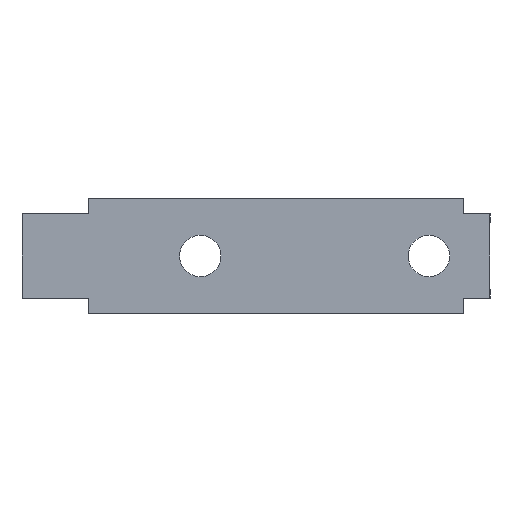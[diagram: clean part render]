
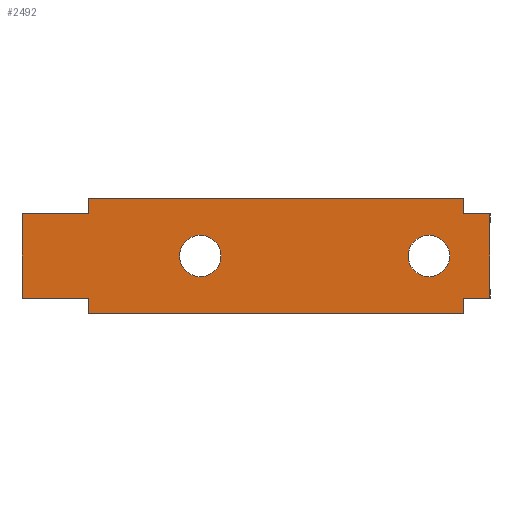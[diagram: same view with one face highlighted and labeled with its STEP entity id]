
A CAD part, left-side view. The second image highlights one B-rep face of the part: STEP entity #2492.
In plain terms, the highlighted planar face has unit normal (-1, 0, 0).
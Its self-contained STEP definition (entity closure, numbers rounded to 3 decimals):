
#77 = VECTOR ( 'NONE', #2344, 1000. ) ;
#78 = LINE ( 'NONE', #2345, #77 ) ;
#85 = CIRCLE ( 'NONE', #795, 2.9 ) ;
#109 = VECTOR ( 'NONE', #1257, 1000. ) ;
#114 = LINE ( 'NONE', #1260, #109 ) ;
#201 = VECTOR ( 'NONE', #1315, 1000. ) ;
#203 = VECTOR ( 'NONE', #1313, 1000. ) ;
#206 = LINE ( 'NONE', #1312, #201 ) ;
#208 = LINE ( 'NONE', #1310, #203 ) ;
#209 = VECTOR ( 'NONE', #1307, 1000. ) ;
#214 = LINE ( 'NONE', #1302, #209 ) ;
#222 = VECTOR ( 'NONE', #1376, 1000. ) ;
#223 = LINE ( 'NONE', #1377, #222 ) ;
#330 = ORIENTED_EDGE ( 'NONE', *, *, #1190, .F. ) ;
#331 = ORIENTED_EDGE ( 'NONE', *, *, #1143, .F. ) ;
#332 = ORIENTED_EDGE ( 'NONE', *, *, #958, .F. ) ;
#333 = ORIENTED_EDGE ( 'NONE', *, *, #1197, .F. ) ;
#334 = ORIENTED_EDGE ( 'NONE', *, *, #963, .T. ) ;
#335 = ORIENTED_EDGE ( 'NONE', *, *, #1175, .F. ) ;
#336 = ORIENTED_EDGE ( 'NONE', *, *, #834, .F. ) ;
#337 = ORIENTED_EDGE ( 'NONE', *, *, #1137, .F. ) ;
#338 = ORIENTED_EDGE ( 'NONE', *, *, #1242, .F. ) ;
#339 = ORIENTED_EDGE ( 'NONE', *, *, #1237, .F. ) ;
#340 = ORIENTED_EDGE ( 'NONE', *, *, #1214, .F. ) ;
#341 = ORIENTED_EDGE ( 'NONE', *, *, #947, .T. ) ;
#342 = ORIENTED_EDGE ( 'NONE', *, *, #830, .F. ) ;
#343 = ORIENTED_EDGE ( 'NONE', *, *, #808, .F. ) ;
#344 = ORIENTED_EDGE ( 'NONE', *, *, #1040, .F. ) ;
#345 = ORIENTED_EDGE ( 'NONE', *, *, #821, .T. ) ;
#617 = EDGE_LOOP ( 'NONE', ( #334, #335, #336, #337, #338, #339, #340, #341, #342, #343, #344, #345 ) ) ;
#620 = EDGE_LOOP ( 'NONE', ( #330, #331 ) ) ;
#621 = EDGE_LOOP ( 'NONE', ( #332, #333 ) ) ;
#795 = AXIS2_PLACEMENT_3D ( 'NONE', #2384, #2376, #2375 ) ;
#808 = EDGE_CURVE ( 'NONE', #1383, #1446, #223, .T. ) ;
#821 = EDGE_CURVE ( 'NONE', #1487, #1537, #214, .T. ) ;
#830 = EDGE_CURVE ( 'NONE', #1446, #1460, #208, .T. ) ;
#834 = EDGE_CURVE ( 'NONE', #1388, #1503, #206, .T. ) ;
#856 = AXIS2_PLACEMENT_3D ( 'NONE', #2350, #2322, #2320 ) ;
#870 = AXIS2_PLACEMENT_3D ( 'NONE', #2346, #2342, #2341 ) ;
#886 = AXIS2_PLACEMENT_3D ( 'NONE', #1178, #1179, #1182 ) ;
#909 = AXIS2_PLACEMENT_3D ( 'NONE', #2385, #2382, #2380 ) ;
#947 = EDGE_CURVE ( 'NONE', #1479, #1460, #114, .T. ) ;
#958 = EDGE_CURVE ( 'NONE', #1498, #1499, #85, .T. ) ;
#963 = EDGE_CURVE ( 'NONE', #1537, #1548, #78, .T. ) ;
#1040 = EDGE_CURVE ( 'NONE', #1487, #1383, #1799, .T. ) ;
#1137 = EDGE_CURVE ( 'NONE', #1390, #1388, #1793, .T. ) ;
#1143 = EDGE_CURVE ( 'NONE', #1547, #1392, #1777, .T. ) ;
#1175 = EDGE_CURVE ( 'NONE', #1503, #1548, #1762, .T. ) ;
#1177 = PLANE ( 'NONE',  #886 ) ;
#1178 = CARTESIAN_POINT ( 'NONE',  ( 0.65, 47.6, -8. ) ) ;
#1179 = DIRECTION ( 'NONE',  ( 1., 0., 0. ) ) ;
#1182 = DIRECTION ( 'NONE',  ( 0., -1., 0. ) ) ;
#1190 = EDGE_CURVE ( 'NONE', #1392, #1547, #1754, .T. ) ;
#1197 = EDGE_CURVE ( 'NONE', #1499, #1498, #1741, .T. ) ;
#1214 = EDGE_CURVE ( 'NONE', #1479, #1515, #1714, .T. ) ;
#1237 = EDGE_CURVE ( 'NONE', #1515, #1530, #1673, .T. ) ;
#1242 = EDGE_CURVE ( 'NONE', #1530, #1390, #1663, .T. ) ;
#1257 = DIRECTION ( 'NONE',  ( 0., 0., 1. ) ) ;
#1260 = CARTESIAN_POINT ( 'NONE',  ( 0.65, -4.9, -8. ) ) ;
#1302 = CARTESIAN_POINT ( 'NONE',  ( 0.65, -4.9, -8. ) ) ;
#1307 = DIRECTION ( 'NONE',  ( 0., 0., 1. ) ) ;
#1310 = CARTESIAN_POINT ( 'NONE',  ( 0.65, -8.55, -5.9 ) ) ;
#1312 = CARTESIAN_POINT ( 'NONE',  ( 0.65, 47.6, 5.9 ) ) ;
#1313 = DIRECTION ( 'NONE',  ( 0., 1., 0. ) ) ;
#1315 = DIRECTION ( 'NONE',  ( 0., -1., 0. ) ) ;
#1376 = DIRECTION ( 'NONE',  ( 0., 0., -1. ) ) ;
#1377 = CARTESIAN_POINT ( 'NONE',  ( 0.65, -8.55, 5.9 ) ) ;
#1383 = VERTEX_POINT ( 'NONE', #2172 ) ;
#1388 = VERTEX_POINT ( 'NONE', #2171 ) ;
#1390 = VERTEX_POINT ( 'NONE', #2170 ) ;
#1392 = VERTEX_POINT ( 'NONE', #2167 ) ;
#1446 = VERTEX_POINT ( 'NONE', #2127 ) ;
#1460 = VERTEX_POINT ( 'NONE', #2110 ) ;
#1479 = VERTEX_POINT ( 'NONE', #2085 ) ;
#1487 = VERTEX_POINT ( 'NONE', #2076 ) ;
#1498 = VERTEX_POINT ( 'NONE', #2062 ) ;
#1499 = VERTEX_POINT ( 'NONE', #2061 ) ;
#1503 = VERTEX_POINT ( 'NONE', #2055 ) ;
#1515 = VERTEX_POINT ( 'NONE', #2040 ) ;
#1530 = VERTEX_POINT ( 'NONE', #2023 ) ;
#1537 = VERTEX_POINT ( 'NONE', #2015 ) ;
#1547 = VERTEX_POINT ( 'NONE', #2000 ) ;
#1548 = VERTEX_POINT ( 'NONE', #1999 ) ;
#1564 = FACE_OUTER_BOUND ( 'NONE', #617, .T. ) ;
#1566 = FACE_BOUND ( 'NONE', #620, .T. ) ;
#1576 = FACE_BOUND ( 'NONE', #621, .T. ) ;
#1662 = VECTOR ( 'NONE', #2192, 1000. ) ;
#1663 = LINE ( 'NONE', #2194, #1662 ) ;
#1672 = VECTOR ( 'NONE', #2209, 1000. ) ;
#1673 = LINE ( 'NONE', #2210, #1672 ) ;
#1713 = VECTOR ( 'NONE', #2268, 1000. ) ;
#1714 = LINE ( 'NONE', #2269, #1713 ) ;
#1741 = CIRCLE ( 'NONE', #856, 2.9 ) ;
#1754 = CIRCLE ( 'NONE', #870, 2.9 ) ;
#1761 = VECTOR ( 'NONE', #2355, 1000. ) ;
#1762 = LINE ( 'NONE', #2356, #1761 ) ;
#1777 = CIRCLE ( 'NONE', #909, 2.9 ) ;
#1792 = VECTOR ( 'NONE', #2396, 1000. ) ;
#1793 = LINE ( 'NONE', #2398, #1792 ) ;
#1799 = LINE ( 'NONE', #2028, #1801 ) ;
#1801 = VECTOR ( 'NONE', #2024, 1000. ) ;
#1999 = CARTESIAN_POINT ( 'NONE',  ( 0.65, 47.6, 8. ) ) ;
#2000 = CARTESIAN_POINT ( 'NONE',  ( 0.65, 29.1, 0. ) ) ;
#2015 = CARTESIAN_POINT ( 'NONE',  ( 0.65, -4.9, 8. ) ) ;
#2023 = CARTESIAN_POINT ( 'NONE',  ( 0.65, 47.6, -5.9 ) ) ;
#2024 = DIRECTION ( 'NONE',  ( 0., -1., 0. ) ) ;
#2028 = CARTESIAN_POINT ( 'NONE',  ( 0.65, -8.55, 5.9 ) ) ;
#2040 = CARTESIAN_POINT ( 'NONE',  ( 0.65, 47.6, -8. ) ) ;
#2055 = CARTESIAN_POINT ( 'NONE',  ( 0.65, 47.6, 5.9 ) ) ;
#2061 = CARTESIAN_POINT ( 'NONE',  ( 0.65, -2.9, 0. ) ) ;
#2062 = CARTESIAN_POINT ( 'NONE',  ( 0.65, 2.9, 0. ) ) ;
#2076 = CARTESIAN_POINT ( 'NONE',  ( 0.65, -4.9, 5.9 ) ) ;
#2085 = CARTESIAN_POINT ( 'NONE',  ( 0.65, -4.9, -8. ) ) ;
#2110 = CARTESIAN_POINT ( 'NONE',  ( 0.65, -4.9, -5.9 ) ) ;
#2127 = CARTESIAN_POINT ( 'NONE',  ( 0.65, -8.55, -5.9 ) ) ;
#2167 = CARTESIAN_POINT ( 'NONE',  ( 0.65, 34.9, 0. ) ) ;
#2170 = CARTESIAN_POINT ( 'NONE',  ( 0.65, 56.95, -5.9 ) ) ;
#2171 = CARTESIAN_POINT ( 'NONE',  ( 0.65, 56.95, 5.9 ) ) ;
#2172 = CARTESIAN_POINT ( 'NONE',  ( 0.65, -8.55, 5.9 ) ) ;
#2192 = DIRECTION ( 'NONE',  ( 0., 1., 0. ) ) ;
#2194 = CARTESIAN_POINT ( 'NONE',  ( 0.65, 47.6, -5.9 ) ) ;
#2209 = DIRECTION ( 'NONE',  ( 0., 0., 1. ) ) ;
#2210 = CARTESIAN_POINT ( 'NONE',  ( 0.65, 47.6, -8. ) ) ;
#2268 = DIRECTION ( 'NONE',  ( 0., 1., 0. ) ) ;
#2269 = CARTESIAN_POINT ( 'NONE',  ( 0.65, 47.6, -8. ) ) ;
#2320 = DIRECTION ( 'NONE',  ( 0., 1., 0. ) ) ;
#2322 = DIRECTION ( 'NONE',  ( -1., 0., 0. ) ) ;
#2341 = DIRECTION ( 'NONE',  ( 0., 1., 0. ) ) ;
#2342 = DIRECTION ( 'NONE',  ( -1., 0., 0. ) ) ;
#2344 = DIRECTION ( 'NONE',  ( 0., 1., 0. ) ) ;
#2345 = CARTESIAN_POINT ( 'NONE',  ( 0.65, 47.6, 8. ) ) ;
#2346 = CARTESIAN_POINT ( 'NONE',  ( 0.65, 32., 0. ) ) ;
#2350 = CARTESIAN_POINT ( 'NONE',  ( 0.65, 0., 0. ) ) ;
#2355 = DIRECTION ( 'NONE',  ( 0., 0., 1. ) ) ;
#2356 = CARTESIAN_POINT ( 'NONE',  ( 0.65, 47.6, -8. ) ) ;
#2375 = DIRECTION ( 'NONE',  ( 0., 1., 0. ) ) ;
#2376 = DIRECTION ( 'NONE',  ( -1., 0., 0. ) ) ;
#2380 = DIRECTION ( 'NONE',  ( 0., 1., 0. ) ) ;
#2382 = DIRECTION ( 'NONE',  ( -1., 0., 0. ) ) ;
#2384 = CARTESIAN_POINT ( 'NONE',  ( 0.65, 0., 0. ) ) ;
#2385 = CARTESIAN_POINT ( 'NONE',  ( 0.65, 32., 0. ) ) ;
#2396 = DIRECTION ( 'NONE',  ( 0., 0., 1. ) ) ;
#2398 = CARTESIAN_POINT ( 'NONE',  ( 0.65, 56.95, 5.9 ) ) ;
#2492 = ADVANCED_FACE ( 'NONE', ( #1566, #1576, #1564 ), #1177, .F. ) ;
